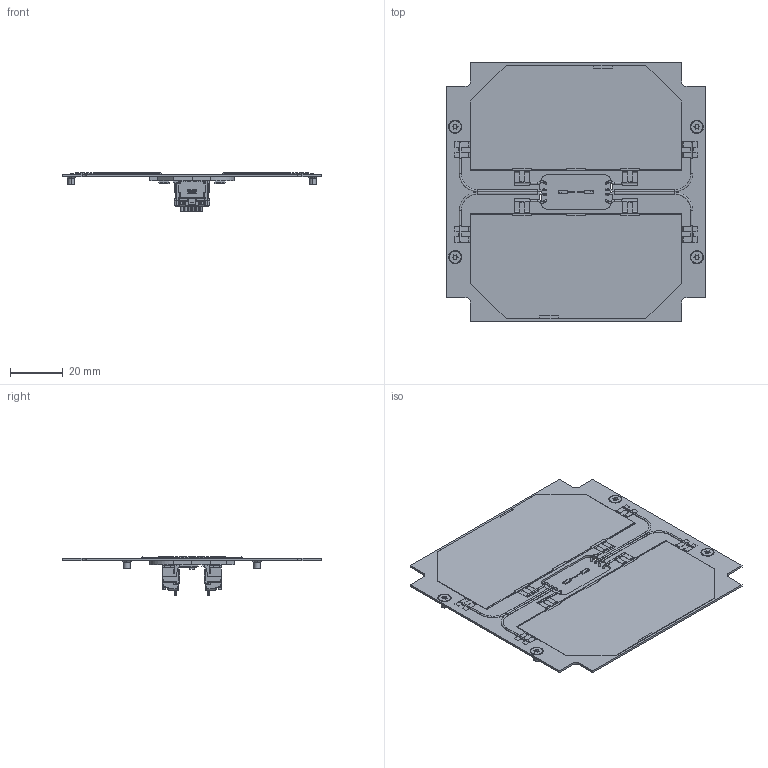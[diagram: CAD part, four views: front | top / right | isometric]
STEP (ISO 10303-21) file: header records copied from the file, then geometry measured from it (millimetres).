
FILE_DESCRIPTION((''),'2;1');
FILE_NAME('ISIS_Z_PANEL_REVB2_SW0001','2019-09-05T',('sbro'),(''),'PRO/ENGINEER BY PARAMETRIC TECHNOLOGY CORPORATION, 2015110','PRO/ENGINEER BY PARAMETRIC TECHNOLOGY CORPORATION, 2015110','');
FILE_SCHEMA(('CONFIG_CONTROL_DESIGN'));
Products named in the file (1): ISIS_Z_PANEL_REVB2_SW0001
Bounding box: 98 x 98 x 14.73 mm (x, y, z)
Volume: 10540.7 mm3; surface area: 23202.1 mm2
Topology: 7 solids, 7 shells, 2748 faces, 7868 edges, 5073 vertices
Faces by surface type: plane 2028, cylinder 558, torus 80, cone 46, sphere 18, bspline 18
Entity records: 104620 total; most frequent: CARTESIAN_POINT 32396, ORIENTED_EDGE 15700, DIRECTION 14209, EDGE_CURVE 7850, VECTOR 6415, LINE 6415, VERTEX_POINT 5073, AXIS2_PLACEMENT_3D 3897
